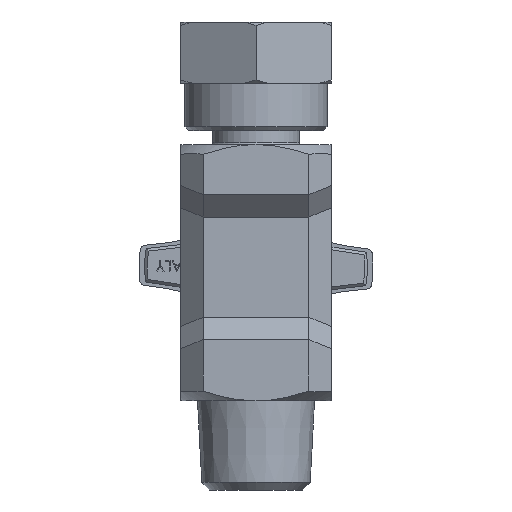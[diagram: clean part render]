
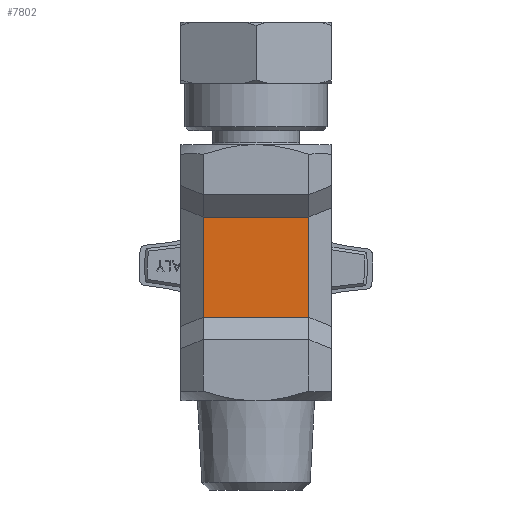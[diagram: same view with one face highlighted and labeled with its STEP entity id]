
A CAD part, front view. The second image highlights one B-rep face of the part: STEP entity #7802.
In plain terms, the highlighted planar face has unit normal (0, -1, 0).
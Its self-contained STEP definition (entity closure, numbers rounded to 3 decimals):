
#1909 = DIRECTION ( 'NONE',  ( 0., 0., 1. ) ) ;
#1910 = DIRECTION ( 'NONE',  ( 0., 1., 0. ) ) ;
#1911 = CARTESIAN_POINT ( 'NONE',  ( -13.5, -9.5, 9. ) ) ;
#1912 = AXIS2_PLACEMENT_3D ( 'NONE', #1911, #1910, #1909 ) ;
#1913 = PLANE ( 'NONE',  #1912 ) ;
#1914 = LINE ( 'NONE', #1978, #1977 ) ;
#1915 = FACE_OUTER_BOUND ( 'NONE', #7803, .T. ) ;
#1970 = DIRECTION ( 'NONE',  ( 0., 0., 1. ) ) ;
#1971 = VECTOR ( 'NONE', #1970, 1000. ) ;
#1972 = CARTESIAN_POINT ( 'NONE',  ( 9.5, -9.5, 9. ) ) ;
#1973 = LINE ( 'NONE', #1972, #1971 ) ;
#1974 = CARTESIAN_POINT ( 'NONE',  ( 9.5, -9.5, -9. ) ) ;
#1975 = CARTESIAN_POINT ( 'NONE',  ( -9.5, -9.5, -9. ) ) ;
#1976 = DIRECTION ( 'NONE',  ( 1., 0., 0. ) ) ;
#1977 = VECTOR ( 'NONE', #1976, 1000. ) ;
#1978 = CARTESIAN_POINT ( 'NONE',  ( -13.5, -9.5, -9. ) ) ;
#7802 = ADVANCED_FACE ( 'NONE', ( #1915 ), #1913, .F. ) ;
#7803 = EDGE_LOOP ( 'NONE', ( #7804, #7808, #7810, #7863 ) ) ;
#7804 = ORIENTED_EDGE ( 'NONE', *, *, #7805, .T. ) ;
#7805 = EDGE_CURVE ( 'NONE', #7806, #7807, #1914, .T. ) ;
#7806 = VERTEX_POINT ( 'NONE', #1975 ) ;
#7807 = VERTEX_POINT ( 'NONE', #1974 ) ;
#7808 = ORIENTED_EDGE ( 'NONE', *, *, #7809, .T. ) ;
#7809 = EDGE_CURVE ( 'NONE', #7807, #7956, #1973, .T. ) ;
#7810 = ORIENTED_EDGE ( 'NONE', *, *, #8042, .F. ) ;
#7863 = ORIENTED_EDGE ( 'NONE', *, *, #7864, .T. ) ;
#7864 = EDGE_CURVE ( 'NONE', #8018, #7806, #14442, .T. ) ;
#7956 = VERTEX_POINT ( 'NONE', #15770 ) ;
#8018 = VERTEX_POINT ( 'NONE', #15602 ) ;
#8042 = EDGE_CURVE ( 'NONE', #8018, #7956, #15597, .T. ) ;
#14439 = DIRECTION ( 'NONE',  ( 0., 0., -1. ) ) ;
#14440 = VECTOR ( 'NONE', #14439, 1000. ) ;
#14441 = CARTESIAN_POINT ( 'NONE',  ( -9.5, -9.5, 9. ) ) ;
#14442 = LINE ( 'NONE', #14441, #14440 ) ;
#15594 = DIRECTION ( 'NONE',  ( 1., 0., 0. ) ) ;
#15595 = VECTOR ( 'NONE', #15594, 1000. ) ;
#15596 = CARTESIAN_POINT ( 'NONE',  ( -13.5, -9.5, 9. ) ) ;
#15597 = LINE ( 'NONE', #15596, #15595 ) ;
#15602 = CARTESIAN_POINT ( 'NONE',  ( -9.5, -9.5, 9. ) ) ;
#15770 = CARTESIAN_POINT ( 'NONE',  ( 9.5, -9.5, 9. ) ) ;
